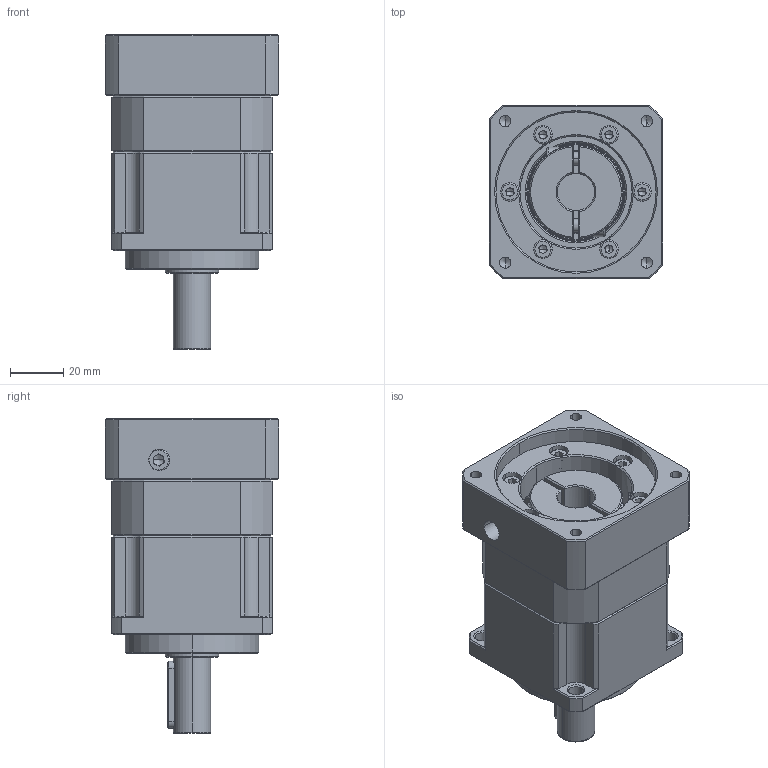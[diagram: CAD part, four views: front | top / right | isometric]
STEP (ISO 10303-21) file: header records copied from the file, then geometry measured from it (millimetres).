
FILE_DESCRIPTION (( 'STEP AP214' ), '1' );
FILE_NAME ('ZPB060-D14-L1-P1-14-60-75-M5.step', '2024-04-23T14:21:55', ( 'Windows 蚚誧' ), ( 'Organization' ), 'SwSTEP 2.0', 'SolidWorks 2016', '' );
FILE_SCHEMA (( 'AUTOMOTIVE_DESIGN' ));
Length unit declared in the file: millimetre
Products named in the file (1): ZPB060-D14-L1-P1-14-60-75-M5
Bounding box: 65 x 65 x 118 mm (x, y, z)
Volume: 248762 mm3; surface area: 77132.3 mm2
Topology: 17 solids, 17 shells, 1852 faces, 5208 edges, 3356 vertices
Faces by surface type: plane 911, bspline 322, cylinder 305, cone 172, torus 96, sphere 46
Entity records: 97646 total; most frequent: CARTESIAN_POINT 32490, ORIENTED_EDGE 10078, DIRECTION 7983, EDGE_CURVE 5039, VERTEX_POINT 3287, LINE 2899, VECTOR 2899, AXIS2_PLACEMENT_3D 2542
